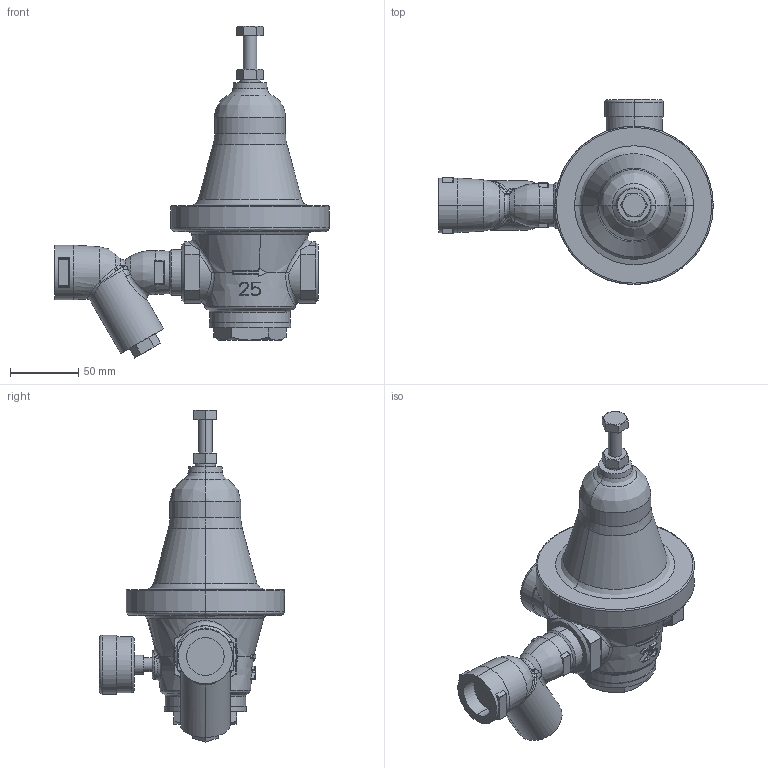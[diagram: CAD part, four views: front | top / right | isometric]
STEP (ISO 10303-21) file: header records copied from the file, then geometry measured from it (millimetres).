
FILE_DESCRIPTION( (''), '2;1');
FILE_NAME ('PC1276.1724.GD-24GS 25A_17048.stp','2025-12-10T13:17:49',(''),(''),'spGate 20.6.3 (****-****-****-****)','','');
FILE_SCHEMA (('AUTOMOTIVE_DESIGN'));
Length unit declared in the file: millimetre
Products named in the file (3): Assembly; SY-24　25A　キャップ; GD-24　25A
Assembly tree (2 placements, depth 2):
  Assembly
    SY-24　25A　キャップ
    GD-24　25A
Bounding box: 201 x 135.53 x 243.14 mm (x, y, z)
Volume: 946614.1 mm3; surface area: 86628.7 mm2
Topology: 2 solids, 2 shells, 431 faces, 1023 edges, 582 vertices
Faces by surface type: bspline 155, cylinder 129, plane 110, sphere 37
Entity records: 25938 total; most frequent: CARTESIAN_POINT 9127, ORIENTED_EDGE 1976, DIRECTION 1616, COLOUR_RGB 1421, PRESENTATION_STYLE_ASSIGNMENT 1421, STYLED_ITEM 1421, EDGE_CURVE 988, DRAUGHTING_PRE_DEFINED_CURVE_FONT 988
